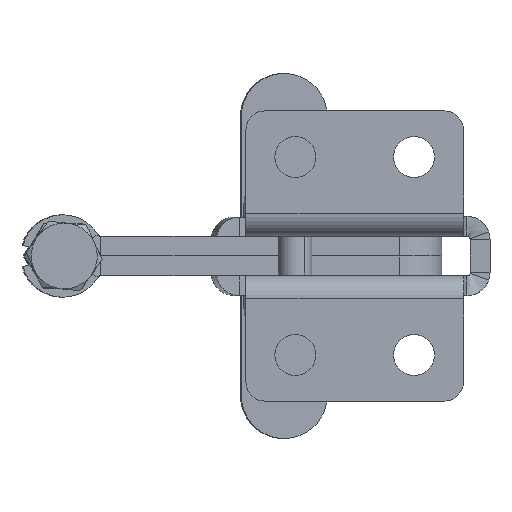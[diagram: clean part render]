
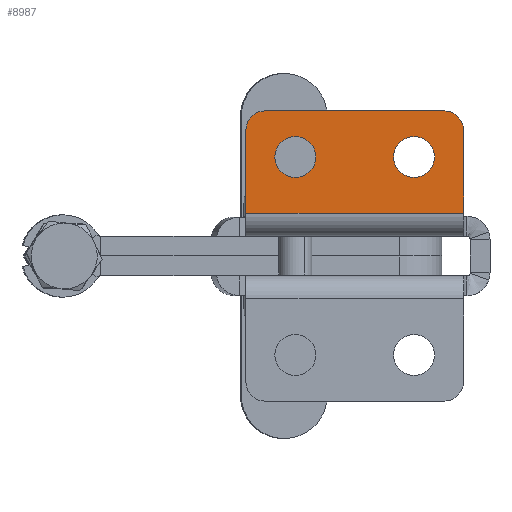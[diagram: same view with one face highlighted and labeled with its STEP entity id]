
A CAD part, front view. The second image highlights one B-rep face of the part: STEP entity #8987.
In plain terms, the highlighted planar face has unit normal (0, -1, 0).
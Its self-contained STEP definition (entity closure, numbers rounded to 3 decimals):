
#415 = DIRECTION ( 'NONE',  ( -1., 0., 0. ) ) ;
#441 = DIRECTION ( 'NONE',  ( 0., -1., 0. ) ) ;
#469 = EDGE_CURVE ( 'NONE', #7315, #9761, #4215, .T. ) ;
#700 = CARTESIAN_POINT ( 'NONE',  ( -37., -3.5, 19. ) ) ;
#776 = VERTEX_POINT ( 'NONE', #5828 ) ;
#962 = FACE_OUTER_BOUND ( 'NONE', #10614, .T. ) ;
#1329 = VERTEX_POINT ( 'NONE', #2690 ) ;
#1409 = VERTEX_POINT ( 'NONE', #14145 ) ;
#1475 = LINE ( 'NONE', #18439, #8699 ) ;
#1891 = AXIS2_PLACEMENT_3D ( 'NONE', #6215, #16312, #7679 ) ;
#2024 = DIRECTION ( 'NONE',  ( 0., -1., 0. ) ) ;
#2428 = CARTESIAN_POINT ( 'NONE',  ( -37., -3.5, 6.5 ) ) ;
#2462 = ORIENTED_EDGE ( 'NONE', *, *, #6634, .F. ) ;
#2557 = EDGE_LOOP ( 'NONE', ( #14154, #8481 ) ) ;
#2690 = CARTESIAN_POINT ( 'NONE',  ( -11.5, -3.5, 18.1 ) ) ;
#2986 = CARTESIAN_POINT ( 'NONE',  ( -37., -3.5, 6.5 ) ) ;
#3188 = VERTEX_POINT ( 'NONE', #6262 ) ;
#3363 = EDGE_CURVE ( 'NONE', #9265, #11393, #15552, .T. ) ;
#3412 = DIRECTION ( 'NONE',  ( 0., -1., 0. ) ) ;
#3441 = CARTESIAN_POINT ( 'NONE',  ( -34., -3.5, 22. ) ) ;
#3518 = ORIENTED_EDGE ( 'NONE', *, *, #8149, .F. ) ;
#4014 = ORIENTED_EDGE ( 'NONE', *, *, #469, .F. ) ;
#4027 = DIRECTION ( 'NONE',  ( 0., 1., 0. ) ) ;
#4215 = LINE ( 'NONE', #2986, #11886 ) ;
#4333 = FACE_BOUND ( 'NONE', #2557, .T. ) ;
#5029 = CIRCLE ( 'NONE', #14226, 3.1 ) ;
#5219 = DIRECTION ( 'NONE',  ( 0., -1., 0. ) ) ;
#5285 = LINE ( 'NONE', #5356, #12984 ) ;
#5356 = CARTESIAN_POINT ( 'NONE',  ( -4., -3.5, 0. ) ) ;
#5506 = EDGE_LOOP ( 'NONE', ( #2462, #3518 ) ) ;
#5525 = CIRCLE ( 'NONE', #10831, 3.1 ) ;
#5828 = CARTESIAN_POINT ( 'NONE',  ( -29.5, -3.5, 18.1 ) ) ;
#6026 = AXIS2_PLACEMENT_3D ( 'NONE', #9067, #441, #10504 ) ;
#6215 = CARTESIAN_POINT ( 'NONE',  ( -11.5, -3.5, 15. ) ) ;
#6262 = CARTESIAN_POINT ( 'NONE',  ( -29.5, -3.5, 11.9 ) ) ;
#6634 = EDGE_CURVE ( 'NONE', #15934, #1329, #13239, .T. ) ;
#6862 = CARTESIAN_POINT ( 'NONE',  ( 0., -3.5, 0. ) ) ;
#7126 = EDGE_CURVE ( 'NONE', #3188, #776, #9371, .T. ) ;
#7157 = EDGE_CURVE ( 'NONE', #776, #3188, #5525, .T. ) ;
#7315 = VERTEX_POINT ( 'NONE', #13979 ) ;
#7467 = CARTESIAN_POINT ( 'NONE',  ( -11.5, -3.5, 15. ) ) ;
#7587 = VERTEX_POINT ( 'NONE', #17554 ) ;
#7679 = DIRECTION ( 'NONE',  ( 0., 0., -1. ) ) ;
#7725 = VECTOR ( 'NONE', #13857, 1000. ) ;
#8149 = EDGE_CURVE ( 'NONE', #1329, #15934, #5029, .T. ) ;
#8180 = FACE_BOUND ( 'NONE', #5506, .T. ) ;
#8341 = DIRECTION ( 'NONE',  ( -1., 0., 0. ) ) ;
#8481 = ORIENTED_EDGE ( 'NONE', *, *, #7157, .F. ) ;
#8699 = VECTOR ( 'NONE', #8341, 1000. ) ;
#8916 = AXIS2_PLACEMENT_3D ( 'NONE', #12047, #3412, #13509 ) ;
#8929 = DIRECTION ( 'NONE',  ( 0., 0., -1. ) ) ;
#8987 = ADVANCED_FACE ( 'NONE', ( #8180, #4333, #962 ), #9741, .F. ) ;
#9067 = CARTESIAN_POINT ( 'NONE',  ( -7., -3.5, 19. ) ) ;
#9265 = VERTEX_POINT ( 'NONE', #3441 ) ;
#9371 = CIRCLE ( 'NONE', #8916, 3.1 ) ;
#9549 = EDGE_CURVE ( 'NONE', #7587, #1409, #10188, .T. ) ;
#9741 = PLANE ( 'NONE',  #10856 ) ;
#9761 = VERTEX_POINT ( 'NONE', #2428 ) ;
#10188 = CIRCLE ( 'NONE', #6026, 3. ) ;
#10504 = DIRECTION ( 'NONE',  ( 0., 0., 1. ) ) ;
#10614 = EDGE_LOOP ( 'NONE', ( #15842, #14494, #11148, #17713, #14064, #4014 ) ) ;
#10644 = CARTESIAN_POINT ( 'NONE',  ( -29.5, -3.5, 15. ) ) ;
#10831 = AXIS2_PLACEMENT_3D ( 'NONE', #10644, #2024, #12110 ) ;
#10856 = AXIS2_PLACEMENT_3D ( 'NONE', #6862, #4027, #14092 ) ;
#11148 = ORIENTED_EDGE ( 'NONE', *, *, #17374, .T. ) ;
#11393 = VERTEX_POINT ( 'NONE', #700 ) ;
#11479 = EDGE_CURVE ( 'NONE', #11393, #9761, #11546, .T. ) ;
#11546 = LINE ( 'NONE', #12413, #7725 ) ;
#11886 = VECTOR ( 'NONE', #415, 1000. ) ;
#12047 = CARTESIAN_POINT ( 'NONE',  ( -29.5, -3.5, 15. ) ) ;
#12110 = DIRECTION ( 'NONE',  ( 0., 0., -1. ) ) ;
#12413 = CARTESIAN_POINT ( 'NONE',  ( -37., -3.5, 0. ) ) ;
#12984 = VECTOR ( 'NONE', #15459, 1000. ) ;
#13239 = CIRCLE ( 'NONE', #1891, 3.1 ) ;
#13509 = DIRECTION ( 'NONE',  ( 0., 0., -1. ) ) ;
#13857 = DIRECTION ( 'NONE',  ( 0., 0., -1. ) ) ;
#13873 = CARTESIAN_POINT ( 'NONE',  ( -34., -3.5, 19. ) ) ;
#13979 = CARTESIAN_POINT ( 'NONE',  ( -4., -3.5, 6.5 ) ) ;
#14064 = ORIENTED_EDGE ( 'NONE', *, *, #11479, .T. ) ;
#14092 = DIRECTION ( 'NONE',  ( 0., 0., 1. ) ) ;
#14145 = CARTESIAN_POINT ( 'NONE',  ( -7., -3.5, 22. ) ) ;
#14154 = ORIENTED_EDGE ( 'NONE', *, *, #7126, .F. ) ;
#14226 = AXIS2_PLACEMENT_3D ( 'NONE', #7467, #17589, #8929 ) ;
#14494 = ORIENTED_EDGE ( 'NONE', *, *, #9549, .T. ) ;
#15334 = DIRECTION ( 'NONE',  ( 0., 0., 1. ) ) ;
#15459 = DIRECTION ( 'NONE',  ( 0., 0., 1. ) ) ;
#15552 = CIRCLE ( 'NONE', #17983, 3. ) ;
#15842 = ORIENTED_EDGE ( 'NONE', *, *, #17334, .T. ) ;
#15934 = VERTEX_POINT ( 'NONE', #18100 ) ;
#16312 = DIRECTION ( 'NONE',  ( 0., -1., 0. ) ) ;
#17334 = EDGE_CURVE ( 'NONE', #7315, #7587, #5285, .T. ) ;
#17374 = EDGE_CURVE ( 'NONE', #1409, #9265, #1475, .T. ) ;
#17554 = CARTESIAN_POINT ( 'NONE',  ( -4., -3.5, 19. ) ) ;
#17589 = DIRECTION ( 'NONE',  ( 0., -1., 0. ) ) ;
#17713 = ORIENTED_EDGE ( 'NONE', *, *, #3363, .T. ) ;
#17983 = AXIS2_PLACEMENT_3D ( 'NONE', #13873, #5219, #15334 ) ;
#18100 = CARTESIAN_POINT ( 'NONE',  ( -11.5, -3.5, 11.9 ) ) ;
#18439 = CARTESIAN_POINT ( 'NONE',  ( 0., -3.5, 22. ) ) ;
